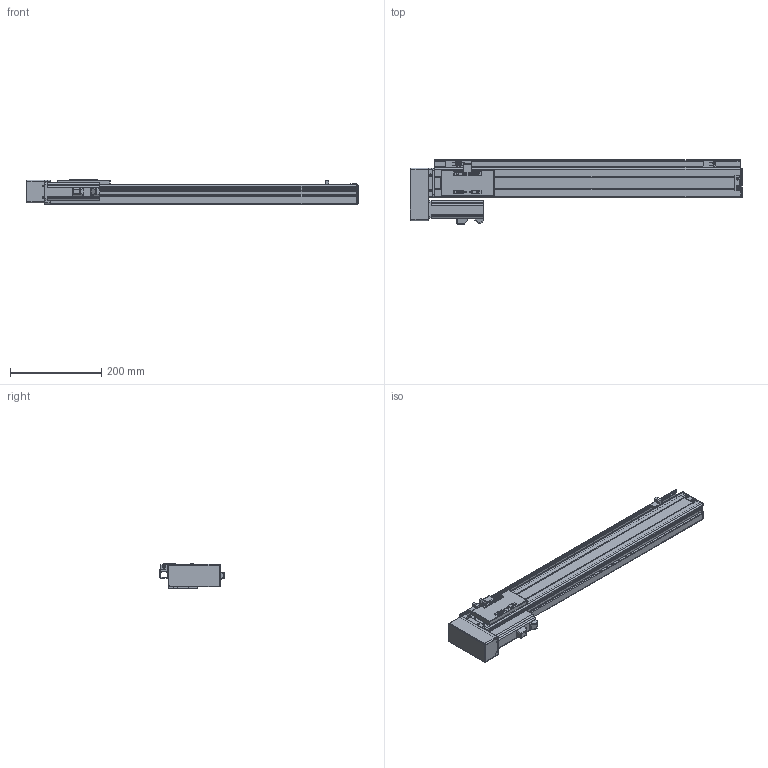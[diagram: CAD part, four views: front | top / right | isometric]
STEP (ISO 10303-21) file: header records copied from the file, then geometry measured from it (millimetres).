
FILE_DESCRIPTION (( 'STEP AP203' ), '1' );
FILE_NAME ('VT6-S520-BL.STEP', '2016-06-17T09:50:40', ( '' ), ( '' ), 'SwSTEP 2.0', 'SolidWorks 2013', '' );
FILE_SCHEMA (( 'CONFIG_CONTROL_DESIGN' ));
Length unit declared in the file: millimetre
Products named in the file (17): T6-BMRLヶ傷裔揤啣; T6-揤輸; T6-BMRL肮祭湍謫欶; T6-覜茼え; T6-BRL萇儂假蚾啣; T6-綴傷裔; 侂狟100W MSMD012G1V; EE-XS674; VT6-S520-BL; ET6-BLRM絳寢_俴最520; ET6-BC耜啣_520; ET6-BLRM滅鳥湍_520; ET6-BC癹弇羲壽羞_520; ET6-BLRM佪裝_520; T6-賑雄殤; T6-BMLRヶ傷裔; T6-裔啣
Assembly tree (19 placements, depth 2):
  VT6-S520-BL
    ET6-BC耜啣_520  x2
    ET6-BC癹弇羲壽羞_520
    T6-賑雄殤
    T6-裔啣
    T6-揤輸
    T6-覜茼え
    T6-綴傷裔
    EE-XS674  x3
    ET6-BLRM絳寢_俴最520
    ET6-BLRM滅鳥湍_520
    ET6-BLRM佪裝_520
    T6-BMLRヶ傷裔
    T6-BMRLヶ傷裔揤啣
    T6-BMRL肮祭湍謫欶
    T6-BRL萇儂假蚾啣
    侂狟100W MSMD012G1V
Bounding box: 727 x 141 x 56 mm (x, y, z)
Volume: 919066.2 mm3; surface area: 560598.8 mm2
Topology: 19 solids, 19 shells, 909 faces, 2412 edges, 1528 vertices
Faces by surface type: cylinder 435, plane 374, cone 46, torus 36, sphere 18
Entity records: 28137 total; most frequent: CARTESIAN_POINT 4729, DIRECTION 4714, ORIENTED_EDGE 4342, EDGE_CURVE 2171, AXIS2_PLACEMENT_3D 1733, VERTEX_POINT 1388, LINE 1248, VECTOR 1248
